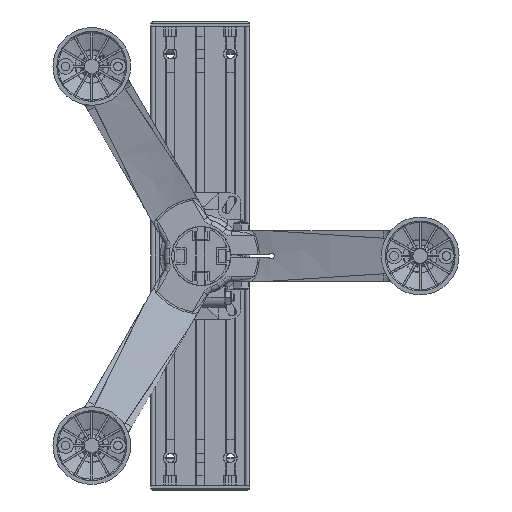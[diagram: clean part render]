
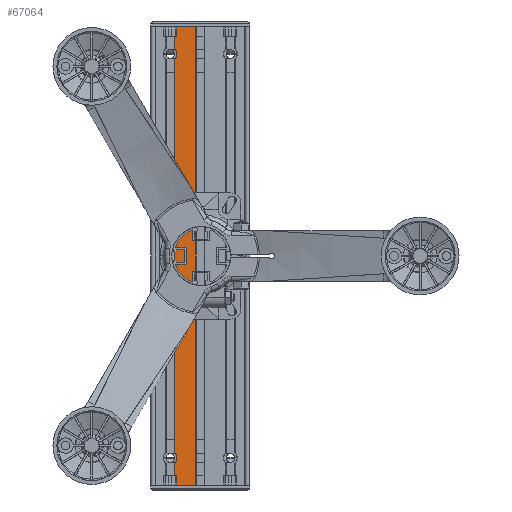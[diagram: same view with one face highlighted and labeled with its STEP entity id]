
A CAD part, front view. The second image highlights one B-rep face of the part: STEP entity #67064.
In plain terms, the highlighted planar face has unit normal (0, -1, 0).
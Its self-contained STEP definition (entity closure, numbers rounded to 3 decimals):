
#125 = CARTESIAN_POINT ( 'NONE',  ( -430.536, 323.017, -56.979 ) ) ;
#971 = DIRECTION ( 'NONE',  ( 0., 0., -1. ) ) ;
#972 = VECTOR ( 'NONE', #971, 1000. ) ;
#973 = CARTESIAN_POINT ( 'NONE',  ( -430.536, 323.017, 415.021 ) ) ;
#974 = LINE ( 'NONE', #973, #972 ) ;
#10375 = DIRECTION ( 'NONE',  ( 1., 0., 0. ) ) ;
#10376 = DIRECTION ( 'NONE',  ( 0., -1., 0. ) ) ;
#10377 = CARTESIAN_POINT ( 'NONE',  ( -456.786, 323.017, -28.979 ) ) ;
#10378 = AXIS2_PLACEMENT_3D ( 'NONE', #10377, #10376, #10375 ) ;
#10379 = CIRCLE ( 'NONE', #10378, 7. ) ;
#14973 = CARTESIAN_POINT ( 'NONE',  ( -452.036, 323.017, -23.837 ) ) ;
#15198 = DIRECTION ( 'NONE',  ( 1., 0., 0. ) ) ;
#15199 = DIRECTION ( 'NONE',  ( 0., -1., 0. ) ) ;
#15200 = CARTESIAN_POINT ( 'NONE',  ( -456.786, 323.017, 387.021 ) ) ;
#15201 = AXIS2_PLACEMENT_3D ( 'NONE', #15200, #15199, #15198 ) ;
#15202 = CIRCLE ( 'NONE', #15201, 7. ) ;
#16362 = CARTESIAN_POINT ( 'NONE',  ( -449.786, 323.017, -28.979 ) ) ;
#19335 = EDGE_CURVE ( 'NONE', #46174, #52583, #77424, .T. ) ;
#19351 = VERTEX_POINT ( 'NONE', #77496 ) ;
#19371 = EDGE_LOOP ( 'NONE', ( #66822, #65208, #65206, #64543, #63216, #65224, #65223, #63102, #62025, #60033 ) ) ;
#19914 = VERTEX_POINT ( 'NONE', #78088 ) ;
#19954 = VERTEX_POINT ( 'NONE', #78164 ) ;
#21182 = CARTESIAN_POINT ( 'NONE',  ( -430.536, 323.017, 415.021 ) ) ;
#28983 = DIRECTION ( 'NONE',  ( 1., 0., 0. ) ) ;
#28984 = VECTOR ( 'NONE', #28983, 1000. ) ;
#28985 = CARTESIAN_POINT ( 'NONE',  ( -452.036, 323.017, -56.979 ) ) ;
#28986 = LINE ( 'NONE', #28985, #28984 ) ;
#32606 = DIRECTION ( 'NONE',  ( 0., 0., -1. ) ) ;
#32607 = VECTOR ( 'NONE', #32606, 1000. ) ;
#32608 = CARTESIAN_POINT ( 'NONE',  ( -452.036, 323.017, 415.021 ) ) ;
#32609 = LINE ( 'NONE', #32608, #32607 ) ;
#32893 = DIRECTION ( 'NONE',  ( 0., 0., -1. ) ) ;
#32894 = VECTOR ( 'NONE', #32893, 1000. ) ;
#32895 = CARTESIAN_POINT ( 'NONE',  ( -452.036, 323.017, 415.021 ) ) ;
#32896 = LINE ( 'NONE', #32895, #32894 ) ;
#33924 = AXIS2_PLACEMENT_3D ( 'NONE', #34015, #34014, #34013 ) ;
#33925 = CIRCLE ( 'NONE', #33924, 7. ) ;
#34013 = DIRECTION ( 'NONE',  ( 1., 0., 0. ) ) ;
#34014 = DIRECTION ( 'NONE',  ( 0., -1., 0. ) ) ;
#34015 = CARTESIAN_POINT ( 'NONE',  ( -456.786, 323.017, 387.021 ) ) ;
#34995 = CARTESIAN_POINT ( 'NONE',  ( -452.036, 323.017, -56.979 ) ) ;
#35589 = CARTESIAN_POINT ( 'NONE',  ( -452.036, 323.017, 381.879 ) ) ;
#43125 = DIRECTION ( 'NONE',  ( 1., 0., 0. ) ) ;
#43126 = VECTOR ( 'NONE', #43125, 1000. ) ;
#43128 = CARTESIAN_POINT ( 'NONE',  ( -452.036, 323.017, 415.021 ) ) ;
#43130 = LINE ( 'NONE', #43128, #43126 ) ;
#46174 = VERTEX_POINT ( 'NONE', #79622 ) ;
#46990 = EDGE_CURVE ( 'NONE', #54154, #55541, #974, .T. ) ;
#52138 = VERTEX_POINT ( 'NONE', #14973 ) ;
#52297 = EDGE_CURVE ( 'NONE', #19954, #19914, #15202, .T. ) ;
#52583 = VERTEX_POINT ( 'NONE', #16362 ) ;
#54154 = VERTEX_POINT ( 'NONE', #21182 ) ;
#55240 = VERTEX_POINT ( 'NONE', #34995 ) ;
#55245 = VERTEX_POINT ( 'NONE', #35589 ) ;
#55541 = VERTEX_POINT ( 'NONE', #125 ) ;
#57135 = FACE_OUTER_BOUND ( 'NONE', #19371, .T. ) ;
#57304 = DIRECTION ( 'NONE',  ( -1., 0., 0. ) ) ;
#57306 = DIRECTION ( 'NONE',  ( 0., 1., 0. ) ) ;
#57309 = CARTESIAN_POINT ( 'NONE',  ( -452.036, 323.017, 415.021 ) ) ;
#57313 = AXIS2_PLACEMENT_3D ( 'NONE', #57309, #57306, #57304 ) ;
#57315 = PLANE ( 'NONE',  #57313 ) ;
#60031 = EDGE_CURVE ( 'NONE', #19351, #54154, #43130, .T. ) ;
#60033 = ORIENTED_EDGE ( 'NONE', *, *, #60031, .F. ) ;
#60862 = DIRECTION ( 'NONE',  ( 0., 0., -1. ) ) ;
#60864 = VECTOR ( 'NONE', #60862, 1000. ) ;
#60866 = CARTESIAN_POINT ( 'NONE',  ( -452.036, 323.017, 415.021 ) ) ;
#60868 = LINE ( 'NONE', #60866, #60864 ) ;
#62025 = ORIENTED_EDGE ( 'NONE', *, *, #46990, .F. ) ;
#62026 = EDGE_CURVE ( 'NONE', #55240, #55541, #28986, .T. ) ;
#63102 = ORIENTED_EDGE ( 'NONE', *, *, #62026, .T. ) ;
#63103 = EDGE_CURVE ( 'NONE', #46174, #55240, #32609, .T. ) ;
#63216 = ORIENTED_EDGE ( 'NONE', *, *, #71159, .F. ) ;
#63217 = EDGE_CURVE ( 'NONE', #55245, #52138, #32896, .T. ) ;
#64543 = ORIENTED_EDGE ( 'NONE', *, *, #63217, .T. ) ;
#64544 = EDGE_CURVE ( 'NONE', #55245, #19954, #33925, .T. ) ;
#65206 = ORIENTED_EDGE ( 'NONE', *, *, #64544, .F. ) ;
#65208 = ORIENTED_EDGE ( 'NONE', *, *, #52297, .F. ) ;
#65223 = ORIENTED_EDGE ( 'NONE', *, *, #63103, .T. ) ;
#65224 = ORIENTED_EDGE ( 'NONE', *, *, #19335, .F. ) ;
#66822 = ORIENTED_EDGE ( 'NONE', *, *, #67644, .T. ) ;
#67064 = ADVANCED_FACE ( 'NONE', ( #57135 ), #57315, .F. ) ;
#67644 = EDGE_CURVE ( 'NONE', #19351, #19914, #60868, .T. ) ;
#71159 = EDGE_CURVE ( 'NONE', #52583, #52138, #10379, .T. ) ;
#77420 = DIRECTION ( 'NONE',  ( 1., 0., 0. ) ) ;
#77421 = DIRECTION ( 'NONE',  ( 0., -1., 0. ) ) ;
#77422 = CARTESIAN_POINT ( 'NONE',  ( -456.786, 323.017, -28.979 ) ) ;
#77423 = AXIS2_PLACEMENT_3D ( 'NONE', #77422, #77421, #77420 ) ;
#77424 = CIRCLE ( 'NONE', #77423, 7. ) ;
#77496 = CARTESIAN_POINT ( 'NONE',  ( -452.036, 323.017, 415.021 ) ) ;
#78088 = CARTESIAN_POINT ( 'NONE',  ( -452.036, 323.017, 392.163 ) ) ;
#78164 = CARTESIAN_POINT ( 'NONE',  ( -449.786, 323.017, 387.021 ) ) ;
#79622 = CARTESIAN_POINT ( 'NONE',  ( -452.036, 323.017, -34.121 ) ) ;
